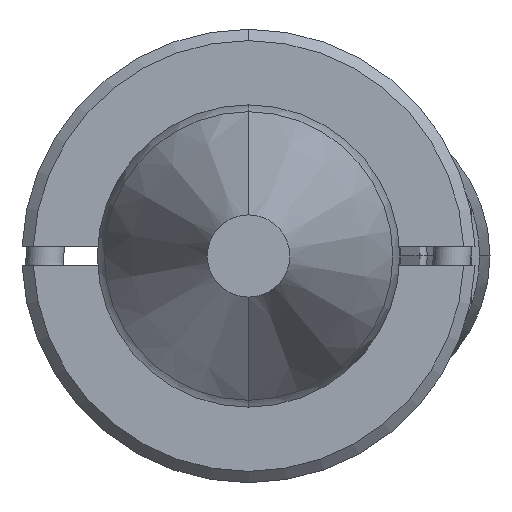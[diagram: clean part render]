
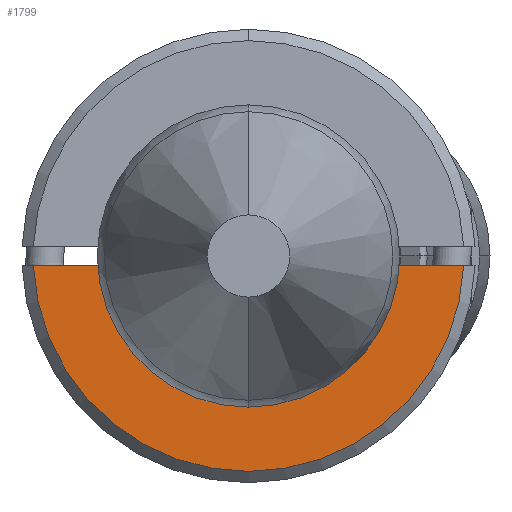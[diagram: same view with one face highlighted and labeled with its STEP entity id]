
A CAD part, front view. The second image highlights one B-rep face of the part: STEP entity #1799.
In plain terms, the highlighted planar face has unit normal (0, -1, 0).
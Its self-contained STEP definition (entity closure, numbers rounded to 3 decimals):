
#172 = FACE_OUTER_BOUND ( 'NONE', #2564, .T. ) ;
#241 = ORIENTED_EDGE ( 'NONE', *, *, #1807, .T. ) ;
#391 = DIRECTION ( 'NONE',  ( 0., 0., -1. ) ) ;
#400 = AXIS2_PLACEMENT_3D ( 'NONE', #2644, #1355, #2627 ) ;
#436 = ORIENTED_EDGE ( 'NONE', *, *, #2993, .F. ) ;
#495 = DIRECTION ( 'NONE',  ( 0., 0., -1. ) ) ;
#697 = CARTESIAN_POINT ( 'NONE',  ( 5.695, -6., -0.25 ) ) ;
#845 = DIRECTION ( 'NONE',  ( 0., 1., 0. ) ) ;
#868 = EDGE_CURVE ( 'NONE', #2740, #4035, #1606, .T. ) ;
#1099 = EDGE_CURVE ( 'NONE', #1266, #3644, #3290, .T. ) ;
#1266 = VERTEX_POINT ( 'NONE', #2011 ) ;
#1355 = DIRECTION ( 'NONE',  ( 0., -1., 0. ) ) ;
#1491 = AXIS2_PLACEMENT_3D ( 'NONE', #2792, #845, #2158 ) ;
#1570 = CARTESIAN_POINT ( 'NONE',  ( -6., -6., -0.25 ) ) ;
#1606 = LINE ( 'NONE', #1570, #3218 ) ;
#1677 = CIRCLE ( 'NONE', #400, 5.7 ) ;
#1799 = ADVANCED_FACE ( 'NONE', ( #172 ), #1975, .T. ) ;
#1807 = EDGE_CURVE ( 'NONE', #2359, #4035, #1677, .T. ) ;
#1975 = PLANE ( 'NONE',  #3451 ) ;
#2011 = CARTESIAN_POINT ( 'NONE',  ( 0., -6., -3.2 ) ) ;
#2017 = CARTESIAN_POINT ( 'NONE',  ( -6., -6., 0. ) ) ;
#2158 = DIRECTION ( 'NONE',  ( 0., 0., -1. ) ) ;
#2246 = LINE ( 'NONE', #2610, #3380 ) ;
#2266 = CIRCLE ( 'NONE', #2539, 3.2 ) ;
#2272 = DIRECTION ( 'NONE',  ( 1., 0., 0. ) ) ;
#2276 = ORIENTED_EDGE ( 'NONE', *, *, #1099, .T. ) ;
#2359 = VERTEX_POINT ( 'NONE', #3699 ) ;
#2539 = AXIS2_PLACEMENT_3D ( 'NONE', #3704, #3053, #495 ) ;
#2564 = EDGE_LOOP ( 'NONE', ( #436, #241, #3659, #3162, #2276 ) ) ;
#2610 = CARTESIAN_POINT ( 'NONE',  ( -6., -6., -0.25 ) ) ;
#2627 = DIRECTION ( 'NONE',  ( 0., 0., -1. ) ) ;
#2644 = CARTESIAN_POINT ( 'NONE',  ( 0., -6., 0. ) ) ;
#2740 = VERTEX_POINT ( 'NONE', #3427 ) ;
#2792 = CARTESIAN_POINT ( 'NONE',  ( 0., -6., 0. ) ) ;
#2993 = EDGE_CURVE ( 'NONE', #2359, #3644, #2246, .T. ) ;
#3053 = DIRECTION ( 'NONE',  ( 0., 1., 0. ) ) ;
#3162 = ORIENTED_EDGE ( 'NONE', *, *, #3569, .T. ) ;
#3218 = VECTOR ( 'NONE', #4069, 1000. ) ;
#3253 = DIRECTION ( 'NONE',  ( 0., -1., 0. ) ) ;
#3290 = CIRCLE ( 'NONE', #1491, 3.2 ) ;
#3380 = VECTOR ( 'NONE', #2272, 1000. ) ;
#3427 = CARTESIAN_POINT ( 'NONE',  ( 3.19, -6., -0.25 ) ) ;
#3447 = CARTESIAN_POINT ( 'NONE',  ( -3.19, -6., -0.25 ) ) ;
#3451 = AXIS2_PLACEMENT_3D ( 'NONE', #2017, #3253, #391 ) ;
#3569 = EDGE_CURVE ( 'NONE', #2740, #1266, #2266, .T. ) ;
#3644 = VERTEX_POINT ( 'NONE', #3447 ) ;
#3659 = ORIENTED_EDGE ( 'NONE', *, *, #868, .F. ) ;
#3699 = CARTESIAN_POINT ( 'NONE',  ( -5.695, -6., -0.25 ) ) ;
#3704 = CARTESIAN_POINT ( 'NONE',  ( 0., -6., 0. ) ) ;
#4035 = VERTEX_POINT ( 'NONE', #697 ) ;
#4069 = DIRECTION ( 'NONE',  ( 1., 0., 0. ) ) ;
